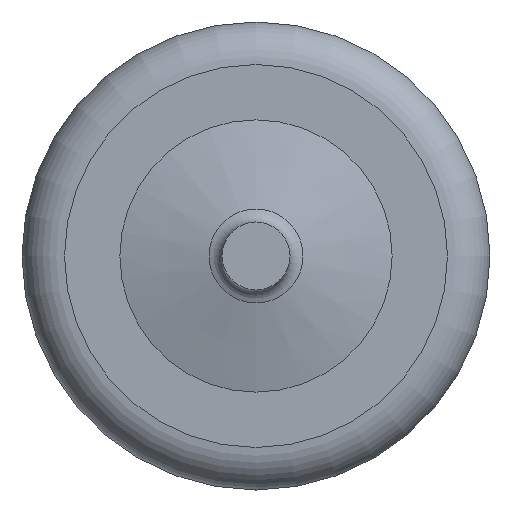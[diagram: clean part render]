
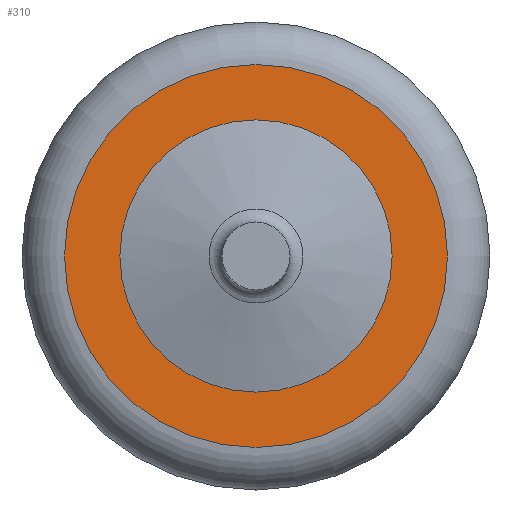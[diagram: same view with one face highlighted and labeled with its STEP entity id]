
A CAD part, left-side view. The second image highlights one B-rep face of the part: STEP entity #310.
In plain terms, the highlighted planar face has unit normal (-1, 0, 0).
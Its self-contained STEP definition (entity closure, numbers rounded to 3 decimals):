
#40=FACE_BOUND('',#100,.T.);
#65=FACE_OUTER_BOUND('',#99,.T.);
#99=EDGE_LOOP('',(#229));
#100=EDGE_LOOP('',(#230));
#143=CIRCLE('',#350,1.6);
#145=CIRCLE('',#354,2.25);
#169=VERTEX_POINT('',#518);
#171=VERTEX_POINT('',#524);
#195=EDGE_CURVE('',#169,#169,#143,.T.);
#197=EDGE_CURVE('',#171,#171,#145,.T.);
#229=ORIENTED_EDGE('',*,*,#197,.F.);
#230=ORIENTED_EDGE('',*,*,#195,.F.);
#269=PLANE('',#353);
#310=ADVANCED_FACE('',(#65,#40),#269,.F.);
#350=AXIS2_PLACEMENT_3D('',#519,#417,#418);
#353=AXIS2_PLACEMENT_3D('',#523,#423,#424);
#354=AXIS2_PLACEMENT_3D('',#525,#425,#426);
#417=DIRECTION('center_axis',(-1.,0.,0.));
#418=DIRECTION('ref_axis',(0.,0.,-1.));
#423=DIRECTION('center_axis',(1.,0.,0.));
#424=DIRECTION('ref_axis',(0.,0.,-1.));
#425=DIRECTION('center_axis',(1.,0.,0.));
#426=DIRECTION('ref_axis',(0.,0.,-1.));
#518=CARTESIAN_POINT('',(-8.25,0.,1.6));
#519=CARTESIAN_POINT('Origin',(-8.25,0.,0.));
#523=CARTESIAN_POINT('Origin',(-8.25,0.,2.75));
#524=CARTESIAN_POINT('',(-8.25,0.,2.25));
#525=CARTESIAN_POINT('Origin',(-8.25,0.,0.));
